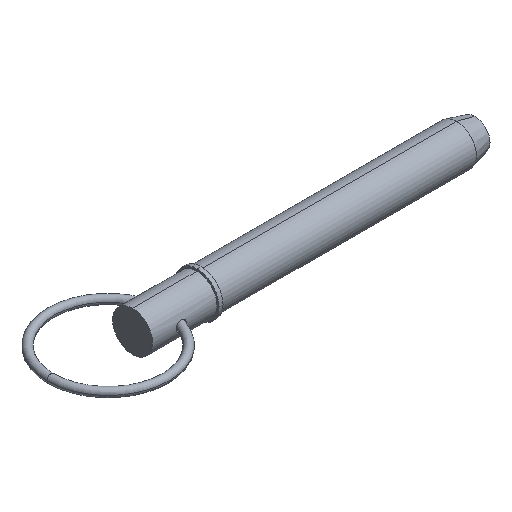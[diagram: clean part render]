
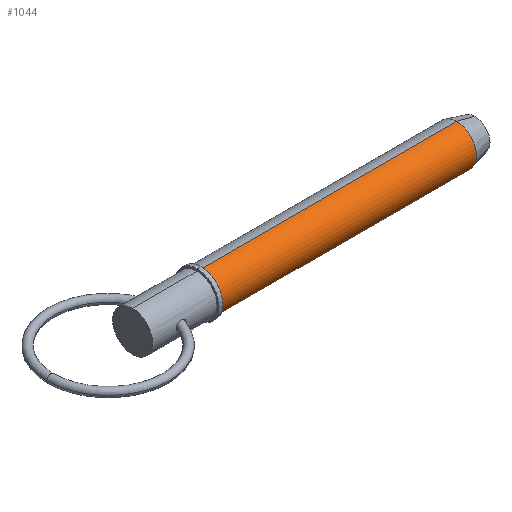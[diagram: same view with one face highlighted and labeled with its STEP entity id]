
A CAD part, isometric view. The second image highlights one B-rep face of the part: STEP entity #1044.
In plain terms, the highlighted cylindrical face has radius 11.115 mm (diameter 22.23 mm), a partial arc.
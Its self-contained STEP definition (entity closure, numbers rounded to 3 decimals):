
#27 = CARTESIAN_POINT ( 'NONE',  ( 38.1, 0., -11.115 ) ) ;
#90 = CIRCLE ( 'NONE', #527, 11.115 ) ;
#175 = DIRECTION ( 'NONE',  ( 0., 0., -1. ) ) ;
#187 = EDGE_CURVE ( 'NONE', #813, #297, #90, .T. ) ;
#199 = CARTESIAN_POINT ( 'NONE',  ( 180.13, 0., 11.115 ) ) ;
#201 = LINE ( 'NONE', #714, #504 ) ;
#212 = DIRECTION ( 'NONE',  ( 1., 0., 0. ) ) ;
#251 = CYLINDRICAL_SURFACE ( 'NONE', #804, 11.115 ) ;
#268 = EDGE_CURVE ( 'NONE', #663, #737, #406, .T. ) ;
#290 = DIRECTION ( 'NONE',  ( 1., 0., 0. ) ) ;
#297 = VERTEX_POINT ( 'NONE', #545 ) ;
#319 = EDGE_CURVE ( 'NONE', #663, #813, #201, .T. ) ;
#383 = DIRECTION ( 'NONE',  ( 1., 0., 0. ) ) ;
#406 = CIRCLE ( 'NONE', #490, 11.115 ) ;
#412 = CARTESIAN_POINT ( 'NONE',  ( 0., 0., -11.115 ) ) ;
#432 = EDGE_CURVE ( 'NONE', #737, #297, #894, .T. ) ;
#490 = AXIS2_PLACEMENT_3D ( 'NONE', #1045, #212, #777 ) ;
#504 = VECTOR ( 'NONE', #383, 1000. ) ;
#521 = ORIENTED_EDGE ( 'NONE', *, *, #268, .T. ) ;
#527 = AXIS2_PLACEMENT_3D ( 'NONE', #552, #290, #539 ) ;
#539 = DIRECTION ( 'NONE',  ( 0., 0., -1. ) ) ;
#545 = CARTESIAN_POINT ( 'NONE',  ( 180.13, 0., -11.115 ) ) ;
#552 = CARTESIAN_POINT ( 'NONE',  ( 180.13, 0., 0. ) ) ;
#600 = EDGE_LOOP ( 'NONE', ( #712, #521, #1074, #824 ) ) ;
#663 = VERTEX_POINT ( 'NONE', #826 ) ;
#712 = ORIENTED_EDGE ( 'NONE', *, *, #319, .F. ) ;
#714 = CARTESIAN_POINT ( 'NONE',  ( 0., 0., 11.115 ) ) ;
#737 = VERTEX_POINT ( 'NONE', #27 ) ;
#750 = CARTESIAN_POINT ( 'NONE',  ( 0., 0., 0. ) ) ;
#777 = DIRECTION ( 'NONE',  ( 0., 0., -1. ) ) ;
#804 = AXIS2_PLACEMENT_3D ( 'NONE', #750, #918, #175 ) ;
#813 = VERTEX_POINT ( 'NONE', #199 ) ;
#824 = ORIENTED_EDGE ( 'NONE', *, *, #187, .F. ) ;
#826 = CARTESIAN_POINT ( 'NONE',  ( 38.1, 0., 11.115 ) ) ;
#831 = FACE_OUTER_BOUND ( 'NONE', #600, .T. ) ;
#894 = LINE ( 'NONE', #412, #1034 ) ;
#918 = DIRECTION ( 'NONE',  ( 1., 0., 0. ) ) ;
#1034 = VECTOR ( 'NONE', #1071, 1000. ) ;
#1044 = ADVANCED_FACE ( 'NONE', ( #831 ), #251, .T. ) ;
#1045 = CARTESIAN_POINT ( 'NONE',  ( 38.1, 0., 0. ) ) ;
#1071 = DIRECTION ( 'NONE',  ( 1., 0., 0. ) ) ;
#1074 = ORIENTED_EDGE ( 'NONE', *, *, #432, .T. ) ;
